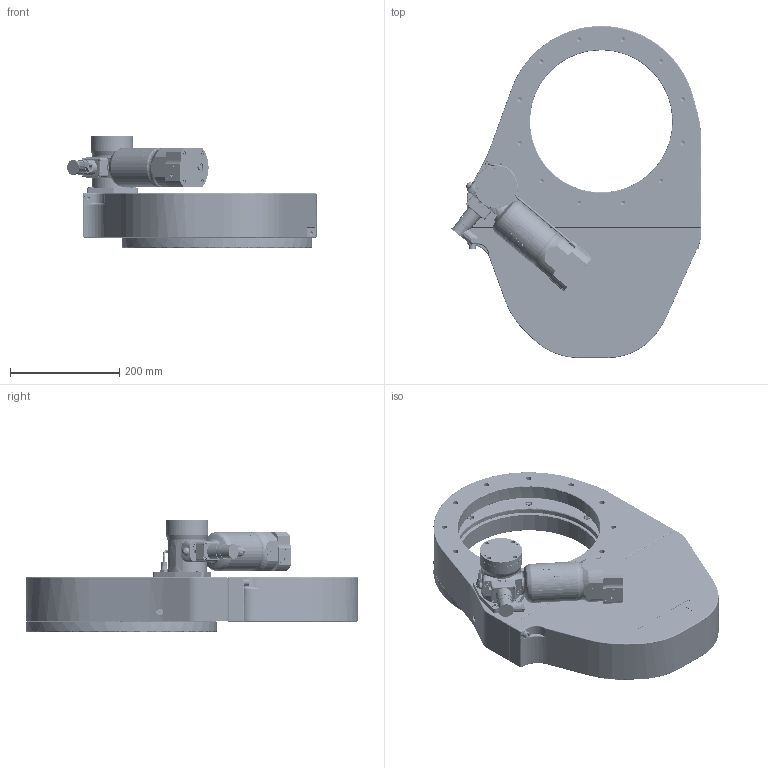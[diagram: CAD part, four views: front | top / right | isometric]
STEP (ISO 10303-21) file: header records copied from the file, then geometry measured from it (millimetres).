
FILE_DESCRIPTION((''),'2;1');
FILE_NAME('C:\TEMP\IDEAS\248408.stp','2008-11-14T10:22:53',('User'),( 'SDRC'),'I-DEAS Master Series','UNIX','Yes');
FILE_SCHEMA(('CONFIG_CONTROL_DESIGN'));
Length unit declared in the file: millimetre
Assembly tree (77 placements, depth 0):
Bounding box: 458.1 x 609 x 205 mm (x, y, z)
Volume: 3548013.8 mm3; surface area: 1390010.6 mm2
Topology: 160 solids, 161 shells, 3620 faces, 8764 edges, 5976 vertices
Faces by surface type: bspline 3620
Entity records: 113466 total; most frequent: CARTESIAN_POINT 66569, ORIENTED_EDGE 13698, EDGE_CURVE 6849, VERTEX_POINT 4399, EDGE_LOOP 3427, FACE_OUTER_BOUND 2863, ADVANCED_FACE 2863, B_SPLINE_CURVE_WITH_KNOTS 2262
